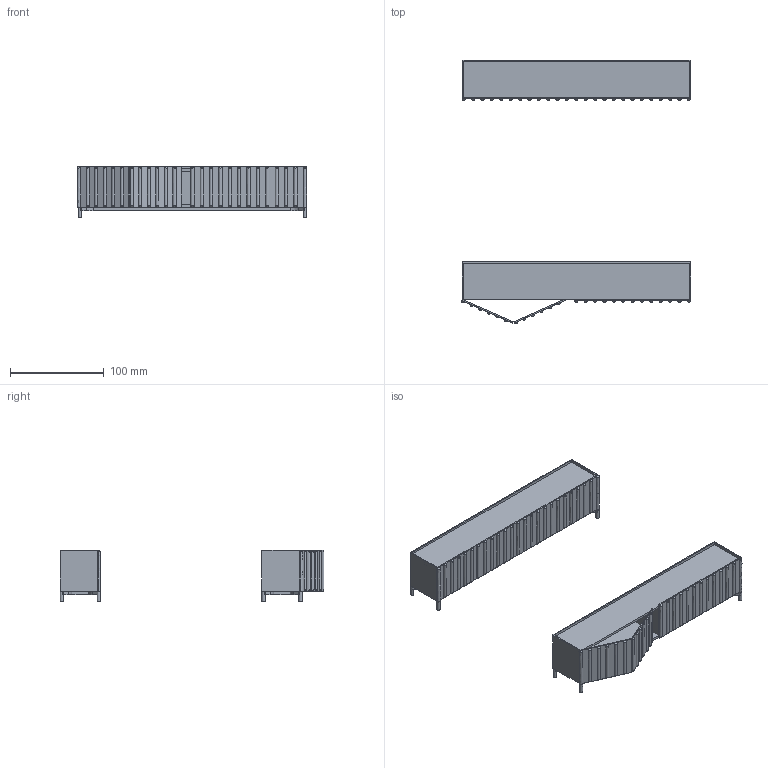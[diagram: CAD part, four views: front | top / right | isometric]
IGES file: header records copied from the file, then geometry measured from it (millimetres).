
Global section: file name: /Users/giona/Google Drive/E-GGS/DESIGN/Credenze/container/MATH/3d/container243.igs; preprocessor: Trout Lake IGES 012 Jun 21 2016; date: 211008.105156; units: millimetre
Bounding box: 244.21 x 281.44 x 54.5 mm (x, y, z)
Surface area: 207465.7 mm2 (no closed solid volume)
Topology: 0 solids, 0 shells, 450 faces, 3922 edges, 3912 vertices
Faces by surface type: bspline 450
